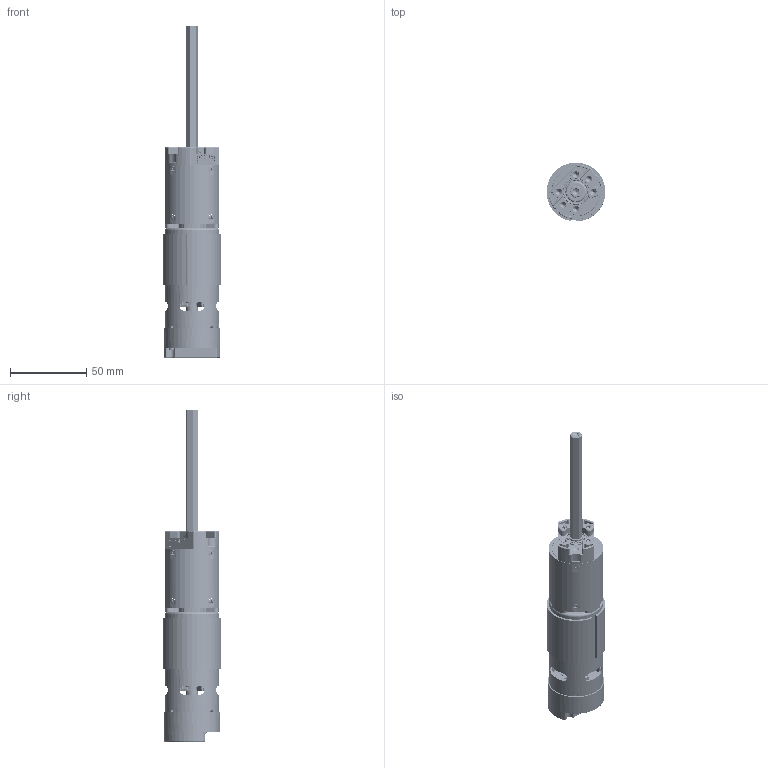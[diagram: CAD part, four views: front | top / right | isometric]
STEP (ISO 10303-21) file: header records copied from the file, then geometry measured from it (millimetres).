
FILE_DESCRIPTION(/* description */ (''),/* implementation_level */ '2;1');
FILE_NAME(/* name */ 'R:/Shared/Solidworks Files/(2) goBILDA/53 Saturn Gear Motors/In Warehouse/STEP Files/5304-8002-0100.step',/* time_stamp */ '2022-10-05T09:43:46-05:00',/* author */ (''),/* organization */ (''),/* preprocessor_version */ 'ST-DEVELOPER v19',/* originating_system */ 'Autodesk Translation Framework v11.7.0.108',/* authorisation */ '');
FILE_SCHEMA (('AUTOMOTIVE_DESIGN { 1 0 10303 214 3 1 1 }'));
Products named in the file (32): 5304-8002-0100; 5001-0002-0001; MainBody; Casing; Ring; Core; Fan; Magnets; Bearing; OD; IR; Cap; EncoderCap; Endcap; JST-XH-4POS-VERT; Plastic; Pin; CapScrew; CapScrew_1; 99461A915_Phillips Rounded Head Thread-Forming Screws; Spacers; PCB; Steel; 5103-0080-0100; 5103 Gearbox Base; 5103 Gearbox Barrel (3 stage, simple)_Gear Blank; 5103 Gearbox Face; 5103 Gearbox Shaft (79.5mm Length, Simple); 5103 Gearbox Snap Ring; 5103 Gearbox Barrel Screw (M3 x 8mm length Flat Head)_92010A118; 5103 Gearbox Bearing; 5103 Gearbox Base Mounting Screw M3 x 8mm length SHCS)_91290A113
Assembly tree (46 placements, depth 5):
  5304-8002-0100
    5001-0002-0001
      MainBody
        Casing
        Ring
        Core
        Fan
        Magnets
        Bearing
          OD
          IR
        Cap
      EncoderCap
        Endcap
        JST-XH-4POS-VERT
          Plastic
          Pin  x4
        CapScrew
          99461A915_Phillips Rounded Head Thread-Forming Screws
        CapScrew_1
          99461A915_Phillips Rounded Head Thread-Forming Screws
      Spacers
        PCB
        Steel
    5103-0080-0100
      5103 Gearbox Base
      5103 Gearbox Barrel (3 stage, simple)_Gear Blank
      5103 Gearbox Barrel Screw (M3 x 8mm length Flat Head)_92010A118  x8
      5103 Gearbox Face
      5103 Gearbox Bearing  x2
      5103 Gearbox Shaft (79.5mm Length, Simple)
      5103 Gearbox Snap Ring
      5103 Gearbox Base Mounting Screw M3 x 8mm length SHCS)_91290A113  x4
Bounding box: 38.5 x 38.5 x 217.25 mm (x, y, z)
Volume: 110368 mm3; surface area: 78968 mm2
Topology: 79 solids, 79 shells, 5007 faces, 12319 edges, 7526 vertices
Faces by surface type: cylinder 1888, plane 1207, bspline 942, torus 403, cone 315, sphere 252
Full cylindrical faces by diameter (mm): 1.15 x10, 1.7 x2, 2 x14, 2.323 x88, 2.35 x124, 2.5 x56, 2.529 x4, 3 x292, 3.05 x8, 3.086 x4, 3.1 x4, 3.175 x3, 3.3 x93, 3.5 x2, 3.7 x2, 4 x90, 5.5 x4, 6 x2, 8 x2, 8.97 x2, 9 x7, 11 x2, 11.15 x4, 11.415 x4, 13 x4, 15 x1, 15.65 x4, 16.45 x4, 17 x4, 20 x1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
Entity records: 196042 total; most frequent: CARTESIAN_POINT 113844, ORIENTED_EDGE 17934, DIRECTION 15550, EDGE_CURVE 8967, AXIS2_PLACEMENT_3D 5936, VERTEX_POINT 5584, EDGE_LOOP 3795, LINE 3678
